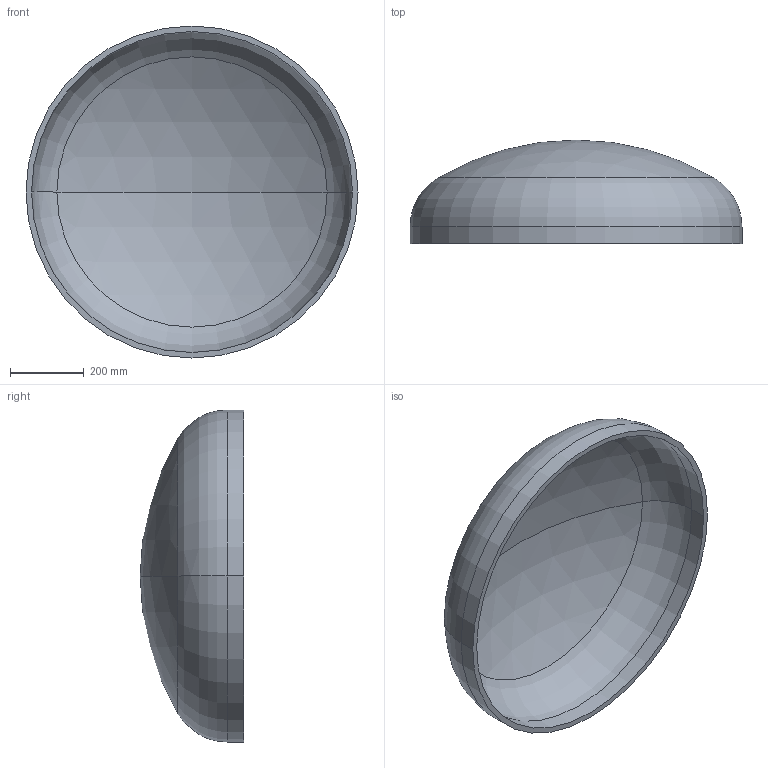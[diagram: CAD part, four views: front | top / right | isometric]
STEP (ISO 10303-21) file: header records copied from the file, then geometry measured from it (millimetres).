
FILE_DESCRIPTION (( 'STEP AP203' ), '1' );
FILE_NAME ('DIN 28013 Korbbogenform_-_Boden DIN 28013 - 900 x 45 - I - s=15.step', '2016-07-01T08:26:39', ( '' ), ( '' ), 'SwSTEP 2.0', 'SolidWorks 2013', '' );
FILE_SCHEMA (( 'CONFIG_CONTROL_DESIGN' ));
Length unit declared in the file: millimetre
Products named in the file (1): DIN 28013 Korbbogenform_-_Boden DIN 28013 - 900 x 45 - I - s=15
Bounding box: 900 x 280.63 x 900 mm (x, y, z)
Volume: 14831437.2 mm3; surface area: 2019700.2 mm2
Topology: 1 solids, 1 shells, 13 faces, 24 edges, 14 vertices
Faces by surface type: torus 4, cylinder 4, sphere 4, plane 1
Entity records: 407 total; most frequent: DIRECTION 72, CARTESIAN_POINT 52, ORIENTED_EDGE 48, AXIS2_PLACEMENT_3D 34, EDGE_CURVE 24, CIRCLE 20, EDGE_LOOP 14, VERTEX_POINT 14
